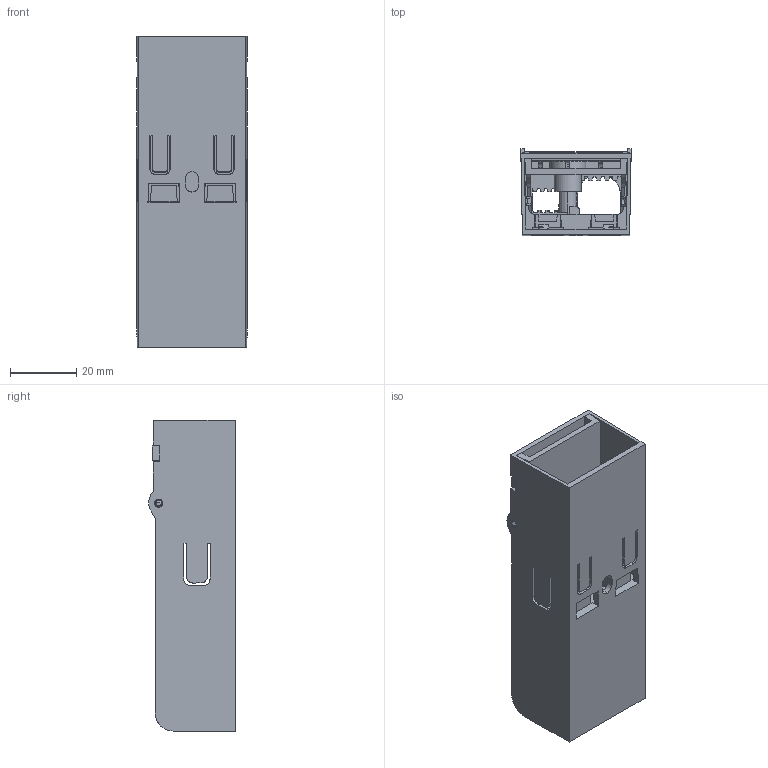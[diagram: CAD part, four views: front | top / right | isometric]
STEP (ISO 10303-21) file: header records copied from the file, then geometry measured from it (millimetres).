
FILE_DESCRIPTION (( 'STEP AP203' ), '1' );
FILE_NAME ('Vedonpoistoassy.STEP', '2026-02-05T08:22:43', ( '' ), ( '' ), 'SwSTEP 2.0', 'SolidWorks 2024', '' );
FILE_SCHEMA (( 'CONFIG_CONTROL_DESIGN' ));
Length unit declared in the file: millimetre
Products named in the file (1): Vedonpoistoassy
Bounding box: 33.8 x 26.22 x 94.16 mm (x, y, z)
Volume: 20028 mm3; surface area: 28942.5 mm2
Topology: 4 solids, 4 shells, 659 faces, 1921 edges, 1273 vertices
Faces by surface type: plane 473, cylinder 138, torus 17, bspline 16, cone 15
Entity records: 23503 total; most frequent: CARTESIAN_POINT 6408, ORIENTED_EDGE 3842, DIRECTION 3185, EDGE_CURVE 1921, VECTOR 1463, LINE 1463, VERTEX_POINT 1273, AXIS2_PLACEMENT_3D 861
